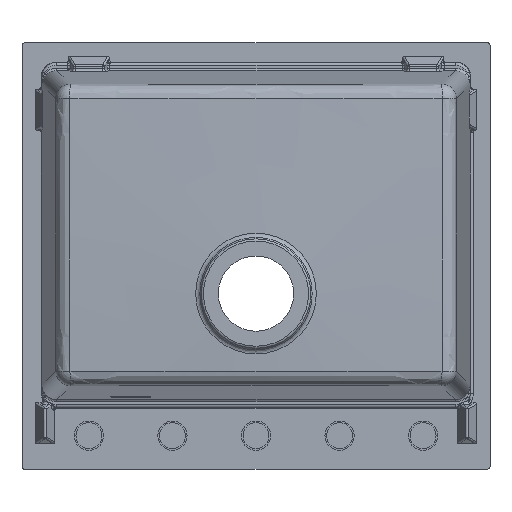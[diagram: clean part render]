
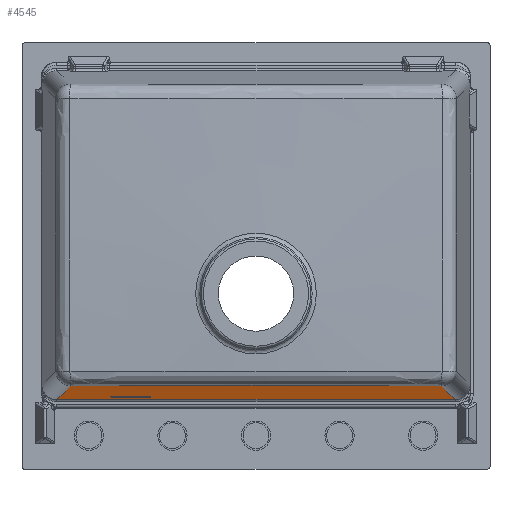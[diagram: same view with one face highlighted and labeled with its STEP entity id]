
A CAD part, front view. The second image highlights one B-rep face of the part: STEP entity #4545.
In plain terms, the highlighted planar face has unit normal (0, -0.087, -0.996).
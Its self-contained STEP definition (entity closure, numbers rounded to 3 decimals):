
#173 = CARTESIAN_POINT ( 'NONE',  ( 46.283, -211.498, -154.9 ) ) ;
#287 = LINE ( 'NONE', #8385, #5819 ) ;
#369 = CARTESIAN_POINT ( 'NONE',  ( -74.008, -210.998, -154.944 ) ) ;
#549 = AXIS2_PLACEMENT_3D ( 'NONE', #17730, #5120, #5210 ) ;
#763 = EDGE_LOOP ( 'NONE', ( #2984, #4817, #4494, #1482 ) ) ;
#1207 = CARTESIAN_POINT ( 'NONE',  ( -174., -10.654, -172.471 ) ) ;
#1482 = ORIENTED_EDGE ( 'NONE', *, *, #5787, .T. ) ;
#1622 = CARTESIAN_POINT ( 'NONE',  ( 37.032, -211.634, -154.888 ) ) ;
#1719 = CARTESIAN_POINT ( 'NONE',  ( -46.251, -211.498, -154.9 ) ) ;
#2232 = ORIENTED_EDGE ( 'NONE', *, *, #13897, .T. ) ;
#2336 = VECTOR ( 'NONE', #8479, 1000. ) ;
#2743 = LINE ( 'NONE', #9970, #2336 ) ;
#2823 = CARTESIAN_POINT ( 'NONE',  ( -129.514, -209.553, -155.07 ) ) ;
#2885 = CARTESIAN_POINT ( 'NONE',  ( 222.012, -206.694, -155.32 ) ) ;
#2984 = ORIENTED_EDGE ( 'NONE', *, *, #13385, .T. ) ;
#3019 = LINE ( 'NONE', #16613, #3195 ) ;
#3151 = VERTEX_POINT ( 'NONE', #7383 ) ;
#3195 = VECTOR ( 'NONE', #11150, 1000. ) ;
#3731 = CARTESIAN_POINT ( 'NONE',  ( -580.5, -42., -169.729 ) ) ;
#3911 = VERTEX_POINT ( 'NONE', #14288 ) ;
#4177 = CARTESIAN_POINT ( 'NONE',  ( -203.513, -207.29, -155.268 ) ) ;
#4446 = CARTESIAN_POINT ( 'NONE',  ( 74.036, -210.997, -154.944 ) ) ;
#4494 = ORIENTED_EDGE ( 'NONE', *, *, #17286, .T. ) ;
#4545 = ADVANCED_FACE ( 'NONE', ( #18058, #15401 ), #7093, .F. ) ;
#4817 = ORIENTED_EDGE ( 'NONE', *, *, #13871, .T. ) ;
#5120 = DIRECTION ( 'NONE',  ( 0., 0.087, 0.996 ) ) ;
#5210 = DIRECTION ( 'NONE',  ( 1., 0., 0. ) ) ;
#5246 = VECTOR ( 'NONE', #17791, 1000. ) ;
#5541 = CARTESIAN_POINT ( 'NONE',  ( 222.012, -206.694, -155.32 ) ) ;
#5625 = CARTESIAN_POINT ( 'NONE',  ( -36.998, -211.634, -154.888 ) ) ;
#5700 = DIRECTION ( 'NONE',  ( -0.087, 0.992, -0.087 ) ) ;
#5708 = CARTESIAN_POINT ( 'NONE',  ( 18.526, -211.82, -154.872 ) ) ;
#5723 = DIRECTION ( 'NONE',  ( 1., 0., 0. ) ) ;
#5787 = EDGE_CURVE ( 'NONE', #14517, #17907, #10049, .T. ) ;
#5819 = VECTOR ( 'NONE', #5723, 1000. ) ;
#6289 = CARTESIAN_POINT ( 'NONE',  ( 238.325, -20.239, -171.633 ) ) ;
#6634 = LINE ( 'NONE', #3731, #5246 ) ;
#6785 = DIRECTION ( 'NONE',  ( -0.087, -0.992, 0.087 ) ) ;
#7093 = PLANE ( 'NONE',  #549 ) ;
#7186 = CARTESIAN_POINT ( 'NONE',  ( -148.015, -209.007, -155.118 ) ) ;
#7383 = CARTESIAN_POINT ( 'NONE',  ( -174., -66., -167.629 ) ) ;
#7678 = ORIENTED_EDGE ( 'NONE', *, *, #13829, .T. ) ;
#7765 = VECTOR ( 'NONE', #6785, 1000. ) ;
#8169 = LINE ( 'NONE', #13733, #7765 ) ;
#8285 = VERTEX_POINT ( 'NONE', #6289 ) ;
#8296 = CARTESIAN_POINT ( 'NONE',  ( -126., -66., -167.629 ) ) ;
#8385 = CARTESIAN_POINT ( 'NONE',  ( -580.5, -66., -167.629 ) ) ;
#8479 = DIRECTION ( 'NONE',  ( 1., 0., 0. ) ) ;
#8646 = CARTESIAN_POINT ( 'NONE',  ( 129.531, -209.552, -155.07 ) ) ;
#9917 = VECTOR ( 'NONE', #5700, 1000. ) ;
#9958 = CARTESIAN_POINT ( 'NONE',  ( -92.511, -210.547, -154.983 ) ) ;
#9970 = CARTESIAN_POINT ( 'NONE',  ( 238.564, -20.239, -171.633 ) ) ;
#10049 = B_SPLINE_CURVE_WITH_KNOTS ( 'NONE', 3,
 ( #5541, #14218, #11138, #15312, #8646, #16775, #4446, #173, #1622, #5708, #15498, #11316, #16873, #5625, #1719, #369, #9958, #2823, #7186, #16692, #4177, #12761 ),
 .UNSPECIFIED., .F., .F.,
 ( 4, 2, 2, 2, 2, 2, 2, 2, 2, 2, 4 ),
 ( 0., 0.056, 0.111, 0.167, 0.194, 0.222, 0.25, 0.278, 0.333, 0.389, 0.444 ),
 .UNSPECIFIED. ) ;
#10720 = VECTOR ( 'NONE', #11919, 1000. ) ;
#11138 = CARTESIAN_POINT ( 'NONE',  ( 185.02, -207.877, -155.217 ) ) ;
#11150 = DIRECTION ( 'NONE',  ( 0., 0.996, -0.087 ) ) ;
#11316 = CARTESIAN_POINT ( 'NONE',  ( -9.237, -211.87, -154.867 ) ) ;
#11725 = CARTESIAN_POINT ( 'NONE',  ( -222.012, -206.694, -155.32 ) ) ;
#11919 = DIRECTION ( 'NONE',  ( 0., -0.996, 0.087 ) ) ;
#12007 = ORIENTED_EDGE ( 'NONE', *, *, #14268, .T. ) ;
#12272 = LINE ( 'NONE', #1207, #10720 ) ;
#12657 = LINE ( 'NONE', #15579, #9917 ) ;
#12761 = CARTESIAN_POINT ( 'NONE',  ( -222.012, -206.694, -155.32 ) ) ;
#13382 = EDGE_LOOP ( 'NONE', ( #2232, #7678, #12007, #17853 ) ) ;
#13385 = EDGE_CURVE ( 'NONE', #17907, #15382, #12657, .T. ) ;
#13733 = CARTESIAN_POINT ( 'NONE',  ( 232.984, -81.284, -166.292 ) ) ;
#13817 = VERTEX_POINT ( 'NONE', #8296 ) ;
#13829 = EDGE_CURVE ( 'NONE', #13817, #3911, #3019, .T. ) ;
#13871 = EDGE_CURVE ( 'NONE', #15382, #8285, #2743, .T. ) ;
#13897 = EDGE_CURVE ( 'NONE', #3151, #13817, #287, .T. ) ;
#14218 = CARTESIAN_POINT ( 'NONE',  ( 203.516, -207.29, -155.268 ) ) ;
#14268 = EDGE_CURVE ( 'NONE', #3911, #16832, #6634, .T. ) ;
#14288 = CARTESIAN_POINT ( 'NONE',  ( -126., -42., -169.729 ) ) ;
#14517 = VERTEX_POINT ( 'NONE', #2885 ) ;
#15312 = CARTESIAN_POINT ( 'NONE',  ( 148.028, -209.007, -155.118 ) ) ;
#15382 = VERTEX_POINT ( 'NONE', #17546 ) ;
#15401 = FACE_OUTER_BOUND ( 'NONE', #763, .T. ) ;
#15498 = CARTESIAN_POINT ( 'NONE',  ( 9.273, -211.87, -154.867 ) ) ;
#15579 = CARTESIAN_POINT ( 'NONE',  ( -241.736, 18.759, -175.045 ) ) ;
#16275 = CARTESIAN_POINT ( 'NONE',  ( -174., -42., -169.729 ) ) ;
#16613 = CARTESIAN_POINT ( 'NONE',  ( -126., -10.654, -172.471 ) ) ;
#16692 = CARTESIAN_POINT ( 'NONE',  ( -185.014, -207.877, -155.217 ) ) ;
#16775 = CARTESIAN_POINT ( 'NONE',  ( 92.535, -210.546, -154.983 ) ) ;
#16832 = VERTEX_POINT ( 'NONE', #16275 ) ;
#16848 = EDGE_CURVE ( 'NONE', #16832, #3151, #12272, .T. ) ;
#16873 = CARTESIAN_POINT ( 'NONE',  ( -18.491, -211.82, -154.872 ) ) ;
#17286 = EDGE_CURVE ( 'NONE', #8285, #14517, #8169, .T. ) ;
#17546 = CARTESIAN_POINT ( 'NONE',  ( -238.325, -20.239, -171.633 ) ) ;
#17730 = CARTESIAN_POINT ( 'NONE',  ( -580.5, -10.654, -172.471 ) ) ;
#17791 = DIRECTION ( 'NONE',  ( -1., 0., 0. ) ) ;
#17853 = ORIENTED_EDGE ( 'NONE', *, *, #16848, .T. ) ;
#17907 = VERTEX_POINT ( 'NONE', #11725 ) ;
#18058 = FACE_BOUND ( 'NONE', #13382, .T. ) ;
